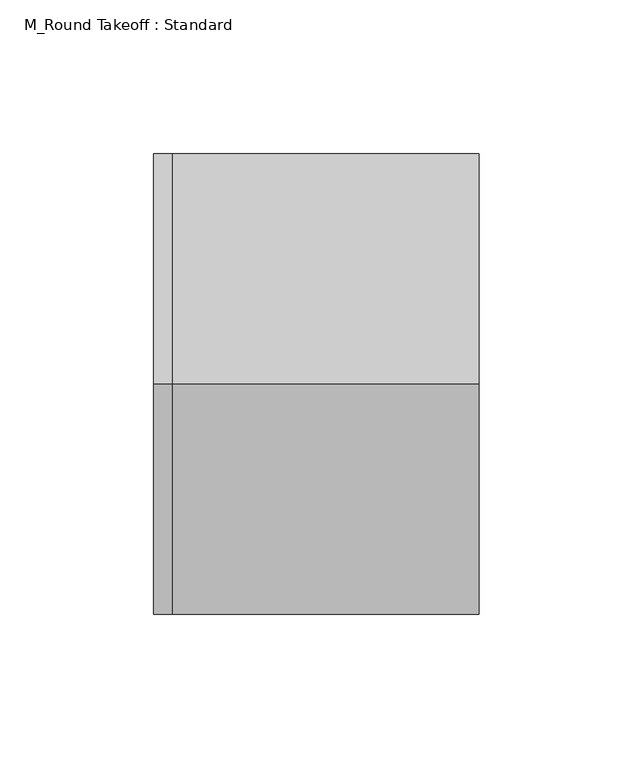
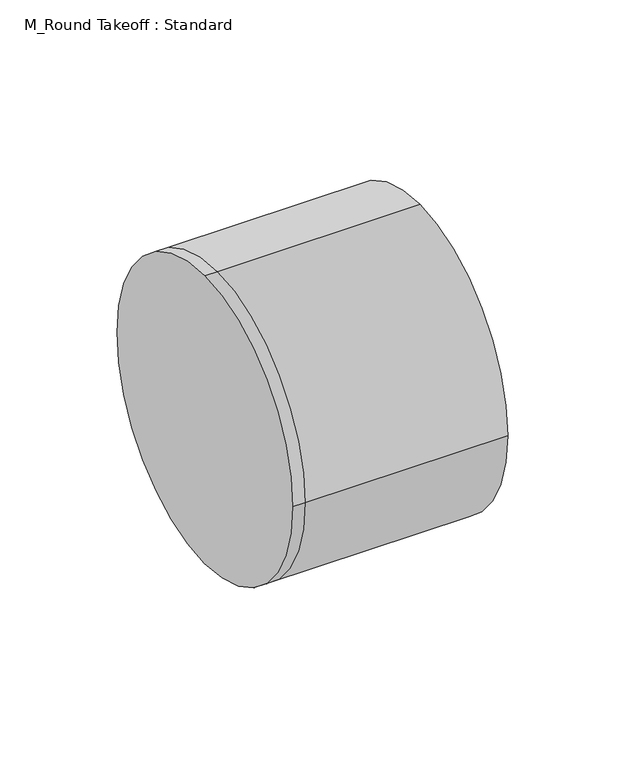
"""IFC4 building model written with IfcOpenShell, lengths in millimetres: duct fitting geometry, M_Round Takeoff : Standard."""

from ifc_helpers import new_model, si_unit, frame, origin, place, context, project, spatial, circle_curve, source, transform, mapped, element, save
from ifc_brep_helpers import plane_surface, cylinder_surface, advanced_brep


def m_round_takeoff_standard_3d7a5062(model_context):
    return source(origin(), model_context, "Body", "AdvancedBrep", [
        advanced_brep(
        [(-6.0970118, 0.0, 75.0), (-6.0970118, 75.0, 0.0), (-6.0970118, 0.0, -75.0), (-6.0970118, -75.0, 0.0), (0.0, 0.0, 75.0), (0.0, 75.0, 0.0), (0.0, 0.0, -75.0), (0.0, -75.0, 0.0), (100.0010118, 0.0, 75.0), (100.0010118, -75.0, 0.0), (100.0010118, 0.0, -75.0), (100.0010118, 75.0, 0.0)],
        [
            (0, 1, circle_curve(frame((-6.0970118, 0.0, 0.0), z_axis=(-1.0, 0.0, 0.0), x_axis=(0.0, 1.0, 0.0)), 75.0)),
            (1, 2, circle_curve(frame((-6.0970118, 0.0, 0.0), z_axis=(-1.0, 0.0, 0.0), x_axis=(0.0, 1.0, 0.0)), 75.0)),
            (2, 3, circle_curve(frame((-6.0970118, 0.0, 0.0), z_axis=(-1.0, 0.0, 0.0), x_axis=(0.0, 1.0, 0.0)), 75.0)),
            (3, 0, circle_curve(frame((-6.0970118, 0.0, 0.0), z_axis=(-1.0, 0.0, 0.0), x_axis=(0.0, 1.0, 0.0)), 75.0)),
            (0, 4),
            (4, 5, circle_curve(frame((0.0, 0.0, 0.0), z_axis=(-1.0, 0.0, 0.0), x_axis=(0.0, 1.0, 0.0)), 75.0)),
            (5, 1),
            (5, 6, circle_curve(frame((0.0, 0.0, 0.0), z_axis=(-1.0, 0.0, 0.0), x_axis=(0.0, 1.0, 0.0)), 75.0)),
            (6, 2),
            (6, 7, circle_curve(frame((0.0, 0.0, 0.0), z_axis=(-1.0, 0.0, 0.0), x_axis=(0.0, 1.0, 0.0)), 75.0)),
            (7, 3),
            (7, 4, circle_curve(frame((0.0, 0.0, 0.0), z_axis=(-1.0, 0.0, 0.0), x_axis=(0.0, 1.0, 0.0)), 75.0)),
            (8, 9, circle_curve(frame((100.0010118, 0.0, 0.0), z_axis=(1.0, 0.0, 0.0), x_axis=(0.0, 1.0, 0.0)), 75.0)),
            (9, 10, circle_curve(frame((100.0010118, 0.0, 0.0), z_axis=(1.0, 0.0, 0.0), x_axis=(0.0, 1.0, 0.0)), 75.0)),
            (10, 11, circle_curve(frame((100.0010118, 0.0, 0.0), z_axis=(1.0, 0.0, 0.0), x_axis=(0.0, 1.0, 0.0)), 75.0)),
            (11, 8, circle_curve(frame((100.0010118, 0.0, 0.0), z_axis=(1.0, 0.0, 0.0), x_axis=(0.0, 1.0, 0.0)), 75.0)),
            (11, 5),
            (4, 8),
            (10, 6),
            (9, 7),
        ],
        [
            plane_surface(frame((-6.0970118, 0.0, 0.0), z_axis=(-1.0, 0.0, 0.0), x_axis=(0.0, 0.0, 1.0))),
            cylinder_surface(frame((-6.0970118, 0.0, 0.0), z_axis=(-1.0, 0.0, 0.0), x_axis=(0.0, 1.0, 0.0)), 75.0),
            plane_surface(frame((100.0010118, 0.0, 0.0), z_axis=(1.0, 0.0, 0.0), x_axis=(0.0, 0.0, 1.0))),
            cylinder_surface(frame((0.0, 0.0, 0.0), z_axis=(-1.0, 0.0, 0.0), x_axis=(0.0, 1.0, 0.0)), 75.0),
        ],
        [
            (0, [[1, 2, 3, 4]]),
            (1, [[-1, 5, 6, 7]]),
            (1, [[-2, -7, 8, 9]]),
            (1, [[-3, -9, 10, 11]]),
            (1, [[-4, -11, 12, -5]]),
            (2, [[13, 14, 15, 16]]),
            (3, [[-16, 17, -6, 18]]),
            (3, [[-15, 19, -8, -17]]),
            (3, [[-14, 20, -10, -19]]),
            (3, [[-13, -18, -12, -20]]),
        ],
    ),
        advanced_brep(
        [(100.0010118, 0.0, 75.0), (100.0010118, -75.0, 0.0), (100.0010118, 0.0, -75.0), (100.0010118, 75.0, 0.0), (0.0, 75.0, 0.0), (0.0, 0.0, 75.0), (0.0, 0.0, -75.0), (0.0, -75.0, 0.0), (-6.0970118, 0.0, 75.0), (-6.0970118, 75.0, 0.0), (-6.0970118, 0.0, -75.0), (-6.0970118, -75.0, 0.0)],
        [
            (0, 1, circle_curve(frame((100.0010118, 0.0, 0.0), z_axis=(1.0, 0.0, 0.0), x_axis=(0.0, 1.0, 0.0)), 75.0)),
            (1, 2, circle_curve(frame((100.0010118, 0.0, 0.0), z_axis=(1.0, 0.0, 0.0), x_axis=(0.0, 1.0, 0.0)), 75.0)),
            (2, 3, circle_curve(frame((100.0010118, 0.0, 0.0), z_axis=(1.0, 0.0, 0.0), x_axis=(0.0, 1.0, 0.0)), 75.0)),
            (3, 0, circle_curve(frame((100.0010118, 0.0, 0.0), z_axis=(1.0, 0.0, 0.0), x_axis=(0.0, 1.0, 0.0)), 75.0)),
            (3, 4),
            (4, 5, circle_curve(frame((0.0, 0.0, 0.0), z_axis=(1.0, 0.0, 0.0), x_axis=(0.0, 1.0, 0.0)), 75.0)),
            (5, 0),
            (2, 6),
            (6, 4, circle_curve(frame((0.0, 0.0, 0.0), z_axis=(1.0, 0.0, 0.0), x_axis=(0.0, 1.0, 0.0)), 75.0)),
            (1, 7),
            (7, 6, circle_curve(frame((0.0, 0.0, 0.0), z_axis=(1.0, 0.0, 0.0), x_axis=(0.0, 1.0, 0.0)), 75.0)),
            (5, 7, circle_curve(frame((0.0, 0.0, 0.0), z_axis=(1.0, 0.0, 0.0), x_axis=(0.0, 1.0, 0.0)), 75.0)),
            (8, 9, circle_curve(frame((-6.0970118, 0.0, 0.0), z_axis=(-1.0, 0.0, 0.0), x_axis=(0.0, 1.0, 0.0)), 75.0)),
            (9, 10, circle_curve(frame((-6.0970118, 0.0, 0.0), z_axis=(-1.0, 0.0, 0.0), x_axis=(0.0, 1.0, 0.0)), 75.0)),
            (10, 11, circle_curve(frame((-6.0970118, 0.0, 0.0), z_axis=(-1.0, 0.0, 0.0), x_axis=(0.0, 1.0, 0.0)), 75.0)),
            (11, 8, circle_curve(frame((-6.0970118, 0.0, 0.0), z_axis=(-1.0, 0.0, 0.0), x_axis=(0.0, 1.0, 0.0)), 75.0)),
            (8, 5),
            (4, 9),
            (6, 10),
            (7, 11),
        ],
        [
            plane_surface(frame((100.0010118, 0.0, 0.0), z_axis=(1.0, 0.0, 0.0), x_axis=(0.0, 0.0, 1.0))),
            cylinder_surface(frame((0.0, 0.0, 0.0), z_axis=(-1.0, 0.0, 0.0), x_axis=(0.0, 1.0, 0.0)), 75.0),
            plane_surface(frame((-6.0970118, 0.0, 0.0), z_axis=(-1.0, 0.0, 0.0), x_axis=(0.0, 0.0, 1.0))),
            cylinder_surface(frame((-6.0970118, 0.0, 0.0), z_axis=(-1.0, 0.0, 0.0), x_axis=(0.0, 1.0, 0.0)), 75.0),
        ],
        [
            (0, [[1, 2, 3, 4]]),
            (1, [[-4, 5, 6, 7]]),
            (1, [[-3, 8, 9, -5]]),
            (1, [[-2, 10, 11, -8]]),
            (1, [[-1, -7, 12, -10]]),
            (2, [[13, 14, 15, 16]]),
            (3, [[-13, 17, -6, 18]]),
            (3, [[-14, -18, -9, 19]]),
            (3, [[-15, -19, -11, 20]]),
            (3, [[-16, -20, -12, -17]]),
        ],
    ),
        advanced_brep(
        [(-6.0970118, 0.0, 75.0), (-6.0970118, 75.0, 0.0), (-6.0970118, 0.0, -75.0), (-6.0970118, -75.0, 0.0), (0.0, 0.0, 75.0), (0.0, 75.0, 0.0), (0.0, 0.0, -75.0), (0.0, -75.0, 0.0), (100.0010118, 0.0, 75.0), (100.0010118, -75.0, 0.0), (100.0010118, 0.0, -75.0), (100.0010118, 75.0, 0.0)],
        [
            (0, 1, circle_curve(frame((-6.0970118, 0.0, 0.0), z_axis=(-1.0, 0.0, 0.0), x_axis=(0.0, 1.0, 0.0)), 75.0)),
            (1, 2, circle_curve(frame((-6.0970118, 0.0, 0.0), z_axis=(-1.0, 0.0, 0.0), x_axis=(0.0, 1.0, 0.0)), 75.0)),
            (2, 3, circle_curve(frame((-6.0970118, 0.0, 0.0), z_axis=(-1.0, 0.0, 0.0), x_axis=(0.0, 1.0, 0.0)), 75.0)),
            (3, 0, circle_curve(frame((-6.0970118, 0.0, 0.0), z_axis=(-1.0, 0.0, 0.0), x_axis=(0.0, 1.0, 0.0)), 75.0)),
            (0, 4),
            (4, 5, circle_curve(frame((0.0, 0.0, 0.0), z_axis=(-1.0, 0.0, 0.0), x_axis=(0.0, 1.0, 0.0)), 75.0)),
            (5, 1),
            (5, 6, circle_curve(frame((0.0, 0.0, 0.0), z_axis=(-1.0, 0.0, 0.0), x_axis=(0.0, 1.0, 0.0)), 75.0)),
            (6, 2),
            (6, 7, circle_curve(frame((0.0, 0.0, 0.0), z_axis=(-1.0, 0.0, 0.0), x_axis=(0.0, 1.0, 0.0)), 75.0)),
            (7, 3),
            (7, 4, circle_curve(frame((0.0, 0.0, 0.0), z_axis=(-1.0, 0.0, 0.0), x_axis=(0.0, 1.0, 0.0)), 75.0)),
            (8, 9, circle_curve(frame((100.0010118, 0.0, 0.0), z_axis=(1.0, 0.0, 0.0), x_axis=(0.0, 1.0, 0.0)), 75.0)),
            (9, 10, circle_curve(frame((100.0010118, 0.0, 0.0), z_axis=(1.0, 0.0, 0.0), x_axis=(0.0, 1.0, 0.0)), 75.0)),
            (10, 11, circle_curve(frame((100.0010118, 0.0, 0.0), z_axis=(1.0, 0.0, 0.0), x_axis=(0.0, 1.0, 0.0)), 75.0)),
            (11, 8, circle_curve(frame((100.0010118, 0.0, 0.0), z_axis=(1.0, 0.0, 0.0), x_axis=(0.0, 1.0, 0.0)), 75.0)),
            (11, 5),
            (4, 8),
            (10, 6),
            (9, 7),
        ],
        [
            plane_surface(frame((-6.0970118, 0.0, 0.0), z_axis=(-1.0, 0.0, 0.0), x_axis=(0.0, 0.0, 1.0))),
            cylinder_surface(frame((-6.0970118, 0.0, 0.0), z_axis=(-1.0, 0.0, 0.0), x_axis=(0.0, 1.0, 0.0)), 75.0),
            plane_surface(frame((100.0010118, 0.0, 0.0), z_axis=(1.0, 0.0, 0.0), x_axis=(0.0, 0.0, 1.0))),
            cylinder_surface(frame((0.0, 0.0, 0.0), z_axis=(-1.0, 0.0, 0.0), x_axis=(0.0, 1.0, 0.0)), 75.0),
        ],
        [
            (0, [[1, 2, 3, 4]]),
            (1, [[-1, 5, 6, 7]]),
            (1, [[-2, -7, 8, 9]]),
            (1, [[-3, -9, 10, 11]]),
            (1, [[-4, -11, 12, -5]]),
            (2, [[13, 14, 15, 16]]),
            (3, [[-16, 17, -6, 18]]),
            (3, [[-15, 19, -8, -17]]),
            (3, [[-14, 20, -10, -19]]),
            (3, [[-13, -18, -12, -20]]),
        ],
    ),
    ])


if __name__ == "__main__":
    model = new_model("IFC4")
    model_context = context("Model", 3, world=origin())
    ifc_project = project(units=[si_unit("LENGTHUNIT", "METRE", prefix="MILLI")], contexts=[model_context])
    site = spatial("IfcSite", under=ifc_project)
    building = spatial("IfcBuilding", under=site)
    placement = place(None, origin())
    m_round_takeoff_standard_shape = m_round_takeoff_standard_3d7a5062(model_context)
    element("IfcDuctFitting", 1, ObjectType="M_Round Takeoff : Standard", at=placement, inside=building, context=model_context, shape_type="MappedRepresentation", body=[
        mapped(m_round_takeoff_standard_shape, transform((0.0, 0.0, 0.0), x_axis=(1.0, 0.0, 0.0), y_axis=(0.0, 1.0, 0.0), z_axis=(0.0, 0.0, 1.0))),
    ])
    save(model, "model.ifc")
